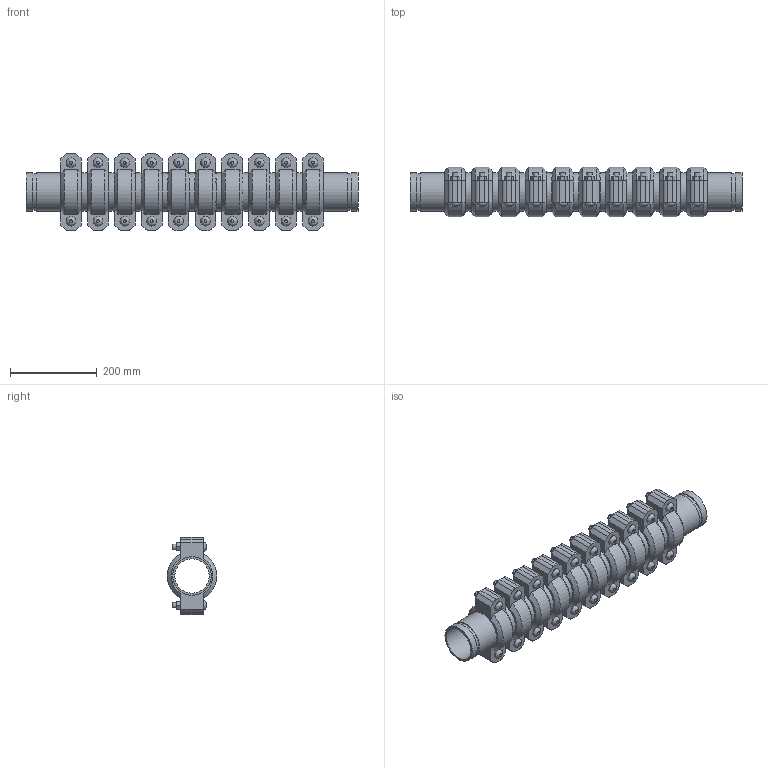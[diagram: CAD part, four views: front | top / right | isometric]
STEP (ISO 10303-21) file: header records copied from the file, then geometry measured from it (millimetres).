
FILE_DESCRIPTION(/* description */ ('VIC SS EXPANSION JOINT 10 COUPLINGS EXPANDED STYLE 155P (OGS) (POTABLE WATER) ','CAx-IF Rec.Pracs.---Representation and Presentation of Product Manufacturing Information (PMI)---4.0---2014-10-13'),/* implementation_level */ '2;1');
FILE_NAME(/* name */ 'C:\Users\kkamble\AppData\Roaming\Autodesk\ApplicationPlugins\Victaulic.Temp\A632\Victaulic_SS_Expansion Joint_Expanded_10 Couplings_Style 155P (OGS)-Potable Water_10 Coup_Expd_3 (80).stp',/* time_stamp */ '2021-07-16T16:44:54+05:00',/* author */ ('kkamble'),/* organization */ ('Victaulic'),/* preprocessor_version */ 'ST-DEVELOPER v17.2',/* originating_system */ 'Autodesk Inventor 2019',/* authorisation */ '');
FILE_SCHEMA (('AP242_MANAGED_MODEL_BASED_3D_ENGINEERING_MIM_LF { 1 0 10303 442 1 1 4 }'));
Length unit declared in the file: inch
Products named in the file (4): 155P-03.0; Nipple-03.0; Nipple-03.0_1; 075-03.0
Assembly tree (21 placements, depth 2):
  155P-03.0
    Nipple-03.0  x2
    Nipple-03.0_1  x9
    075-03.0  x10
Bounding box: 765.3 x 113.88 x 177.8 mm (x, y, z)
Volume: 4187240.1 mm3; surface area: 1056066.2 mm2
Topology: 21 solids, 41 shells, 702 faces, 1661 edges, 1166 vertices
Faces by surface type: plane 426, cylinder 216, cone 40, bspline 20
Full cylindrical faces by diameter (mm): 12.7 x40, 14.605 x20, 79.35 x11, 82.55 x10, 84.938 x22, 88.9 x53
Entity records: 2886 total; most frequent: CARTESIAN_POINT 507, DIRECTION 485, ORIENTED_EDGE 386, AXIS2_PLACEMENT_3D 196, EDGE_CURVE 193, VERTEX_POINT 138, EDGE_LOOP 107, LINE 93
